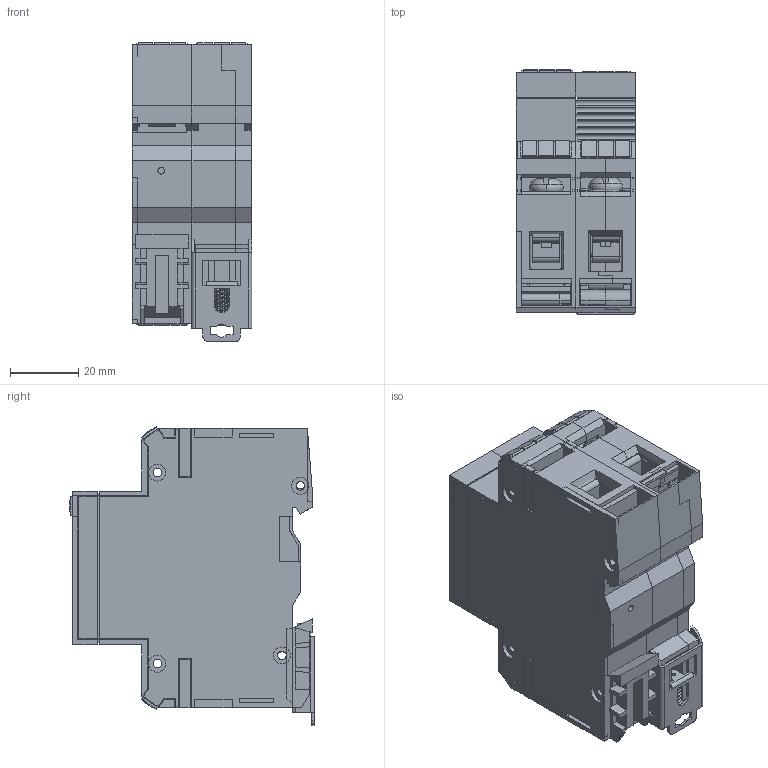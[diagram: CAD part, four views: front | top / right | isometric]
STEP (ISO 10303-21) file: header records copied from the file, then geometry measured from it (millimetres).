
FILE_DESCRIPTION (( 'STEP AP214' ), '1' );
FILE_NAME ('OptiIDn OM 1 ïîëþñ + OMu.STEP', '2022-12-06T11:25:47', ( '' ), ( '' ), 'SwSTEP 2.0', 'SolidWorks 2018', '' );
FILE_SCHEMA (( 'AUTOMOTIVE_DESIGN' ));
Length unit declared in the file: millimetre
Products named in the file (23): Ïëàñòèíà 52-040_Š1; Çàãëóøêà ìîäóëÿ Ï 50-083; Îñíîâàíèå ìîäóëÿ Ë 50-094(ïóñòîé ñ èçìåíåíûì ãàáàðèòîì)_„«ï ç¥àâ¥¦ ; Âûâîä 53-027 îáðåçàíûé äëÿ ñàéòà; ÎÌu ïóñòîé_„«ï á¡®àª¨; Çàùåëêà 11-010; Âñòàâêà êîäèðîâî÷íàÿ 50-082; Ïåðåìû÷êà 03-025; Êîðïóñ ëåâûé ïóñòîé; 暑痫篑 镳噔 矬耱铋; Ïðóæèíà çàùåëêè 13-007; Êîäèðîâî÷íàÿ âñòàâêà; Êîëîäêà 03-039 ïîä íîâûé ãàáàðèòû; ﾈ淸韭瑣ⅱ 01; Çàãëóøêà ìîäóëÿ Ë 50-084; Ñüåìíûé ìîäóëü 01 ïóñòîé; ﾂ鏆鮏 01; OptiIDn OM 1 ïîëþñ + OMu; Îñíîâàíèå ìîäóëÿ Ï 50-095 ïóñòîé; 署赅 01 矬耱铋; 鎔艜 03-024; 扻豵鵨 01 瀀嚦鍣; Ìåòêà 21-086
Assembly tree (39 placements, depth 3):
  OptiIDn OM 1 ïîëþñ + OMu
    Îñíîâàíèå ìîäóëÿ Ë 50-094(ïóñòîé ñ èçìåíåíûì ãàáàðèòîì)_„«ï ç¥àâ¥¦ 
    Îñíîâàíèå ìîäóëÿ Ï 50-095 ïóñòîé
    Âûâîä 53-027 îáðåçàíûé äëÿ ñàéòà  x2
    Çàãëóøêà ìîäóëÿ Ë 50-084
    Çàãëóøêà ìîäóëÿ Ï 50-083
    Êîëîäêà 03-039 ïîä íîâûé ãàáàðèòû  x2
    Âñòàâêà êîäèðîâî÷íàÿ 50-082
    鎔艜 03-024  x2
    Ïëàñòèíà 52-040_Š1
    Ìåòêà 21-086  x2
    Ñüåìíûé ìîäóëü 01 ïóñòîé
      扻豵鵨 01 瀀嚦鍣
      署赅 01 矬耱铋
      Êîäèðîâî÷íàÿ âñòàâêà
      ﾂ鏆鮏 01  x2
      Ìåòêà 21-086
    Çàùåëêà 11-010
    Ïðóæèíà çàùåëêè 13-007
    Ïåðåìû÷êà 03-025
    ÎÌu ïóñòîé_„«ï á¡®àª¨
      Êîðïóñ ëåâûé ïóñòîé
      ﾈ淸韭瑣ⅱ 01
      暑痫篑 镳噔 矬耱铋
      Çàãëóøêà ìîäóëÿ Ë 50-084
      Çàãëóøêà ìîäóëÿ Ï 50-083
      Ìåòêà 21-086  x3
      Âûâîä 53-027 îáðåçàíûé äëÿ ñàéòà  x2
      鎔艜 03-024  x2
      Êîëîäêà 03-039 ïîä íîâûé ãàáàðèòû  x2
Bounding box: 35 x 71.68 x 87.56 mm (x, y, z)
Volume: 99369.5 mm3; surface area: 90399 mm2
Topology: 37 solids, 37 shells, 3347 faces, 9251 edges, 6015 vertices
Faces by surface type: plane 2685, cylinder 636, torus 16, bspline 8, cone 2
Entity records: 72475 total; most frequent: CARTESIAN_POINT 14517, ORIENTED_EDGE 12214, DIRECTION 11228, EDGE_CURVE 6107, LINE 5364, VECTOR 5364, VERTEX_POINT 3987, AXIS2_PLACEMENT_3D 2932
